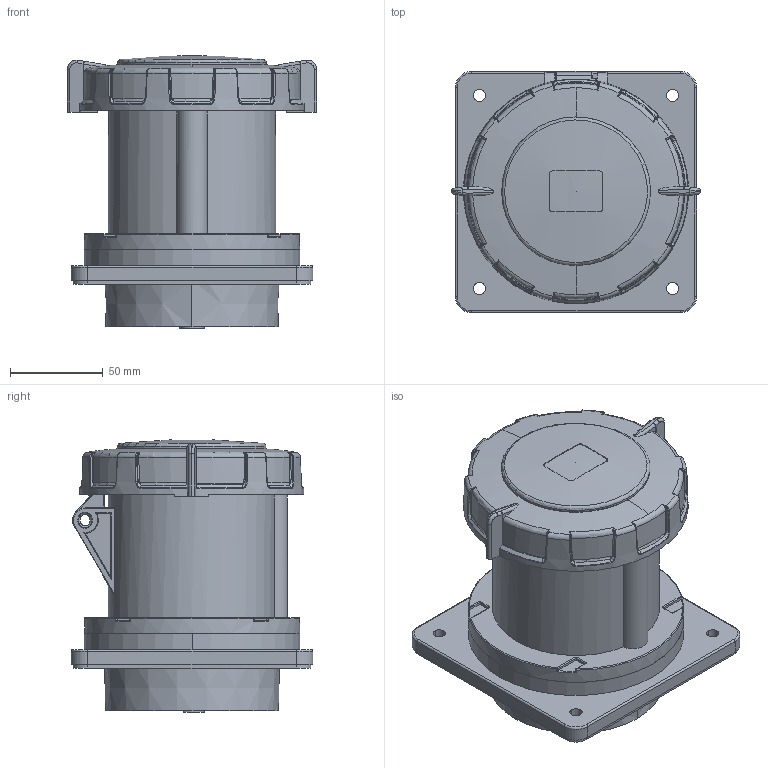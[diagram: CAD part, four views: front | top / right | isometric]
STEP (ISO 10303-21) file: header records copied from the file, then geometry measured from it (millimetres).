
FILE_DESCRIPTION(('FreeCAD Model'),'2;1');
FILE_NAME('Open CASCADE Shape Model','2026-02-04T09:02:23',(''),(''), 'Open CASCADE STEP processor 7.8','FreeCAD','Unknown');
FILE_SCHEMA(('AUTOMOTIVE_DESIGN { 1 0 10303 214 1 1 1 1 }'));
Length unit declared in the file: millimetre
Products named in the file (7): TL3R125653; Corpo tomada; Terminais; Tampa parte 2; Base externa; Tampa parte 1; Base interna
Assembly tree (6 placements, depth 2):
  TL3R125653
    Corpo tomada
    Terminais
    Tampa parte 2
    Base externa
    Tampa parte 1
    Base interna
Bounding box: 134 x 130 x 146.53 mm (x, y, z)
Volume: 851090.9 mm3; surface area: 275536.3 mm2
Topology: 6 solids, 6 shells, 1418 faces, 3704 edges, 2341 vertices
Faces by surface type: plane 573, cylinder 359, bspline 215, torus 135, cone 75, extrusion 45, sphere 16
Full cylindrical faces by diameter (mm): 6.6 x1, 78.4 x1, 79.3 x1, 80 x1, 94.5 x1, 111 x1
Entity records: 55303 total; most frequent: CARTESIAN_POINT 21660, ORIENTED_EDGE 7404, DIRECTION 6503, EDGE_CURVE 3702, AXIS2_PLACEMENT_3D 2375, VERTEX_POINT 2341, VECTOR 1753, LINE 1708
